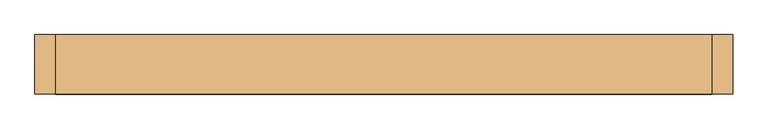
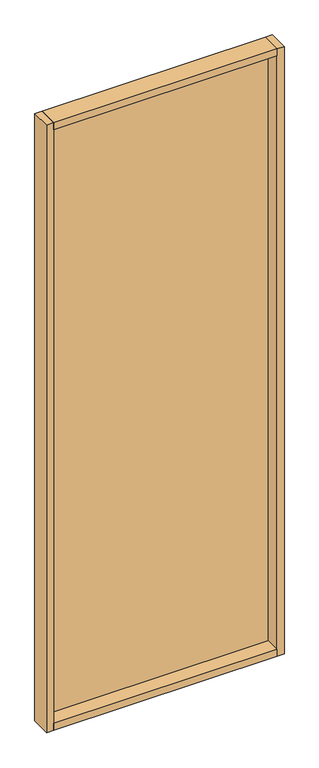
"""IFC4 building model written with IfcOpenShell, lengths in millimetres: door geometry, Mobiliário_Mobiliário de Escritório_Painel Lambri - ACVL (Completo)_Marelli : ACVL."""

from ifc_helpers import new_model, si_unit, frame, origin, origin_with_axes, place, context, project, spatial, polyline, outline, extrude, source, transform, mapped, element, save


def door_0893ecdf(model_context):
    return source(origin(), model_context, "Body", "SweptSolid", [
        extrude(outline(polyline([(470.0, 42.5), (470.0, -42.5), (-470.0, -42.5), (-470.0, 42.5), (470.0, 42.5)])), origin_with_axes(), (0.0, 0.0, 1.0), 30.0),
        extrude(outline(polyline([(470.0, 42.5), (470.0, -42.5), (-470.0, -42.5), (-470.0, 42.5), (470.0, 42.5)])), frame((0.0, 0.0, 2670.0), z_axis=(0.0, 0.0, 1.0), x_axis=(1.0, 0.0, 0.0)), (0.0, 0.0, 1.0), 30.0),
        extrude(outline(polyline([(-500.0, -42.5), (-500.0, 42.5), (-470.0, 42.5), (-470.0, -42.5), (-500.0, -42.5)])), origin_with_axes(), (0.0, 0.0, 1.0), 2700.0),
        extrude(outline(polyline([(500.0, -42.5), (470.0, -42.5), (470.0, 42.5), (500.0, 42.5), (500.0, -42.5)])), origin_with_axes(), (0.0, 0.0, 1.0), 2700.0),
        extrude(outline(polyline([(470.0, 39.5), (470.0, 21.5), (-470.0, 21.5), (-470.0, 39.5), (470.0, 39.5)])), frame((0.0, 0.0, 30.0), z_axis=(0.0, 0.0, 1.0), x_axis=(1.0, 0.0, 0.0)), (0.0, 0.0, 1.0), 2640.0),
    ])


if __name__ == "__main__":
    model = new_model("IFC4")
    model_context = context("Model", 3, world=origin())
    ifc_project = project(units=[si_unit("LENGTHUNIT", "METRE", prefix="MILLI")], contexts=[model_context])
    site = spatial("IfcSite", under=ifc_project)
    building = spatial("IfcBuilding", under=site)
    placement = place(None, origin())
    door_shape = door_0893ecdf(model_context)
    element("IfcDoor", 1, ObjectType="Mobiliário_Mobiliário de Escritório_Painel Lambri - ACVL (Completo)_Marelli : ACVL", at=placement, inside=building, context=model_context, shape_type="MappedRepresentation", body=[
        mapped(door_shape, transform((0.0, 0.0, 0.0), x_axis=(1.0, 0.0, 0.0), y_axis=(0.0, 1.0, 0.0), z_axis=(0.0, 0.0, 1.0))),
    ])
    save(model, "model.ifc")
